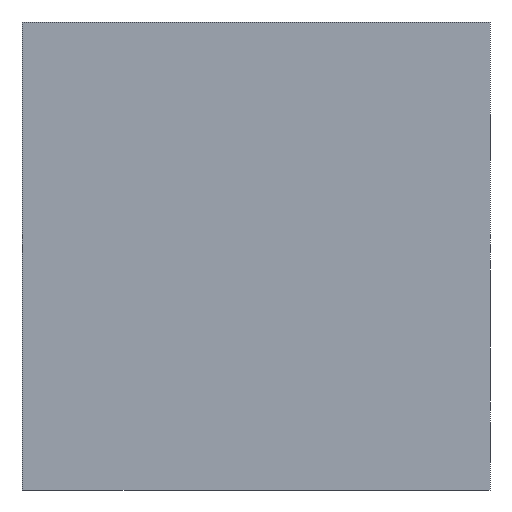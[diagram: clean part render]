
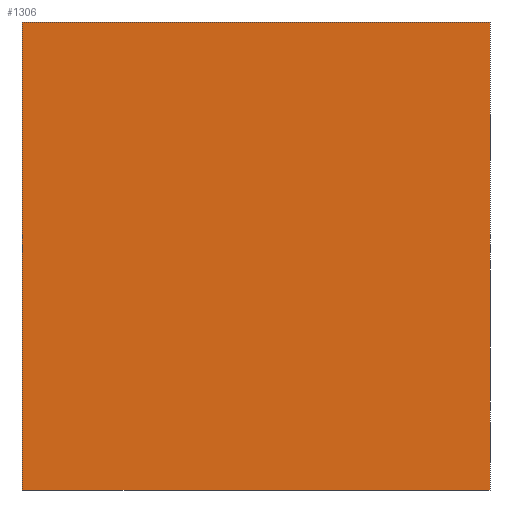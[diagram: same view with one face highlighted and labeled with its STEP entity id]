
A CAD part, front view. The second image highlights one B-rep face of the part: STEP entity #1306.
In plain terms, the highlighted planar face has unit normal (0, -1, 0).
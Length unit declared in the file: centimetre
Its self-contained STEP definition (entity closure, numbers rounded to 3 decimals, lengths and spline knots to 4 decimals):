
#47 = CARTESIAN_POINT ( 'NONE',  ( 0., 0., 0. ) ) ;
#55 = DIRECTION ( 'NONE',  ( 1., 0., 0. ) ) ;
#89 = CARTESIAN_POINT ( 'NONE',  ( 0., 0., 1000. ) ) ;
#196 = VERTEX_POINT ( 'NONE', #248 ) ;
#248 = CARTESIAN_POINT ( 'NONE',  ( 0., 0., 1000. ) ) ;
#433 = EDGE_CURVE ( 'NONE', #196, #1564, #1546, .T. ) ;
#479 = ORIENTED_EDGE ( 'NONE', *, *, #433, .T. ) ;
#501 = VERTEX_POINT ( 'NONE', #939 ) ;
#550 = PLANE ( 'NONE',  #1000 ) ;
#571 = FACE_OUTER_BOUND ( 'NONE', #884, .T. ) ;
#621 = DIRECTION ( 'NONE',  ( 0., 0., -1. ) ) ;
#667 = LINE ( 'NONE', #1569, #1219 ) ;
#728 = DIRECTION ( 'NONE',  ( 0., 1., 0. ) ) ;
#771 = VECTOR ( 'NONE', #1498, 100. ) ;
#801 = CARTESIAN_POINT ( 'NONE',  ( 0., 0., 1000. ) ) ;
#884 = EDGE_LOOP ( 'NONE', ( #1016, #1497, #1491, #479 ) ) ;
#939 = CARTESIAN_POINT ( 'NONE',  ( 1000., 0., 1000. ) ) ;
#1000 = AXIS2_PLACEMENT_3D ( 'NONE', #89, #728, #1633 ) ;
#1016 = ORIENTED_EDGE ( 'NONE', *, *, #1297, .T. ) ;
#1041 = VECTOR ( 'NONE', #621, 100. ) ;
#1219 = VECTOR ( 'NONE', #55, 100. ) ;
#1297 = EDGE_CURVE ( 'NONE', #1564, #1897, #1605, .T. ) ;
#1306 = ADVANCED_FACE ( 'NONE', ( #571 ), #550, .F. ) ;
#1357 = EDGE_CURVE ( 'NONE', #501, #1897, #1820, .T. ) ;
#1491 = ORIENTED_EDGE ( 'NONE', *, *, #1502, .F. ) ;
#1497 = ORIENTED_EDGE ( 'NONE', *, *, #1357, .F. ) ;
#1498 = DIRECTION ( 'NONE',  ( 1., 0., 0. ) ) ;
#1502 = EDGE_CURVE ( 'NONE', #196, #501, #667, .T. ) ;
#1535 = VECTOR ( 'NONE', #1946, 100. ) ;
#1546 = LINE ( 'NONE', #801, #1041 ) ;
#1564 = VERTEX_POINT ( 'NONE', #1751 ) ;
#1566 = CARTESIAN_POINT ( 'NONE',  ( 1000., 0., 0. ) ) ;
#1569 = CARTESIAN_POINT ( 'NONE',  ( 0., 0., 1000. ) ) ;
#1605 = LINE ( 'NONE', #47, #771 ) ;
#1633 = DIRECTION ( 'NONE',  ( 0., 0., 1. ) ) ;
#1751 = CARTESIAN_POINT ( 'NONE',  ( 0., 0., 0. ) ) ;
#1820 = LINE ( 'NONE', #1975, #1535 ) ;
#1897 = VERTEX_POINT ( 'NONE', #1566 ) ;
#1946 = DIRECTION ( 'NONE',  ( 0., 0., -1. ) ) ;
#1975 = CARTESIAN_POINT ( 'NONE',  ( 1000., 0., 1000. ) ) ;
